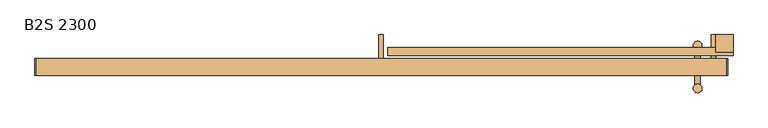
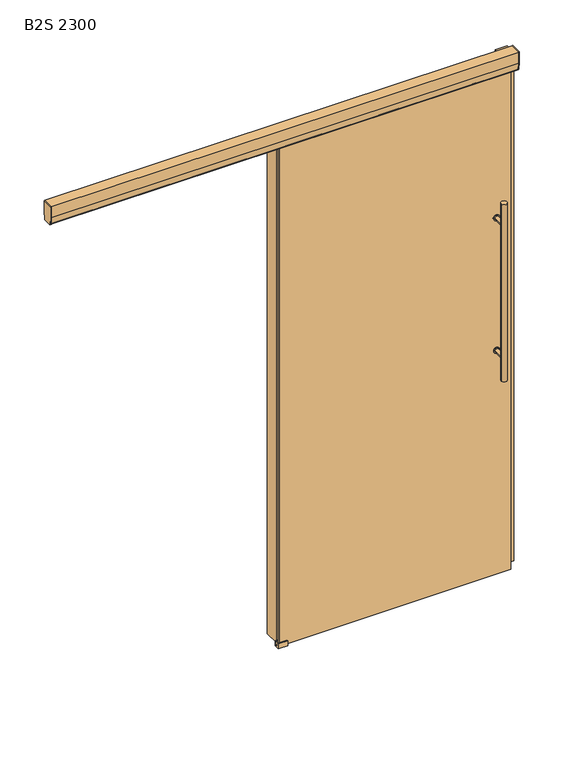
"""IFC4 building model written with IfcOpenShell, lengths in millimetres: door geometry, Mobiliário_Mobiliário de Escritório_Porta Simples de Correr - BS_Marelli : B2S 2300."""

from ifc_helpers import new_model, si_unit, point, frame, frame_2d, origin, origin_with_axes, place, context, project, spatial, polyline, circle_curve, trimmed, segment, composite_curve, outline, extrude, source, transform, mapped, element, save


def b2s_2300_ca406560(model_context):
    return source(origin(), model_context, "Body", "SweptSolid", [
        extrude(outline(polyline([(823.1735443, -30.5), (835.8735443, -30.5), (835.8735443, -100.0), (823.1735443, -100.0), (823.1735443, -30.5)])), origin_with_axes(), (0.0, 0.0, 1.0), 2275.0),
        extrude(outline(polyline([(1798.5735443, -30.5), (1798.5735443, -100.0), (1785.8735443, -100.0), (1785.8735443, -30.5), (1798.5735443, -30.5)])), origin_with_axes(), (0.0, 0.0, 1.0), 2275.0),
        extrude(outline(polyline([(1808.5735443, -129.0), (818.5735443, -129.0), (818.5735443, -119.0), (1808.5735443, -119.0), (1808.5735443, -129.0)])), frame((0.0, 0.0, 4.5), z_axis=(0.0, 0.0, 1.0), x_axis=(1.0, 0.0, 0.0)), (0.0, 0.0, 1.0), 2295.5),
        extrude(outline(polyline([(1848.5735443, -30.5), (1848.5735443, -80.5), (1798.5735443, -80.5), (1798.5735443, -30.5), (1848.5735443, -30.5)])), origin_with_axes(), (0.0, 0.0, 1.0), 2300.0),
        extrude(outline(composite_curve([segment(trimmed(circle_curve(frame_2d((1020.0, 1745.6952124)), 12.7), [point((1020.0, 1732.9952124))], [point((1020.0, 1758.3952124))], False, "CARTESIAN"), True, "CONTINUOUS"), segment(trimmed(circle_curve(frame_2d((1020.0, 1745.6952124)), 12.7), [point((1020.0, 1758.3952124))], [point((1020.0, 1732.9952124))], False, "CARTESIAN"), True, "CONTINUOUS")], self_intersect=False)), frame((0.0, -133.0, 0.0), z_axis=(0.0, 1.0, 0.0), x_axis=(0.0, 0.0, 1.0)), (0.0, 0.0, 1.0), 18.0),
        extrude(outline(composite_curve([segment(trimmed(circle_curve(frame_2d((1620.0, 1745.6952124)), 12.7), [point((1620.0, 1732.9952124))], [point((1620.0, 1758.3952124))], False, "CARTESIAN"), True, "CONTINUOUS"), segment(trimmed(circle_curve(frame_2d((1620.0, 1745.6952124)), 12.7), [point((1620.0, 1758.3952124))], [point((1620.0, 1732.9952124))], False, "CARTESIAN"), True, "CONTINUOUS")], self_intersect=False)), frame((0.0, -133.0, 0.0), z_axis=(0.0, 1.0, 0.0), x_axis=(0.0, 0.0, 1.0)), (0.0, 0.0, 1.0), 18.0),
        extrude(outline(composite_curve([segment(trimmed(circle_curve(frame_2d((1020.0, 1745.6952124)), 8.0), [point((1020.0, 1737.6952124))], [point((1020.0, 1753.6952124))], False, "CARTESIAN"), True, "CONTINUOUS"), segment(trimmed(circle_curve(frame_2d((1020.0, 1745.6952124)), 8.0), [point((1020.0, 1753.6952124))], [point((1020.0, 1737.6952124))], False, "CARTESIAN"), True, "CONTINUOUS")], self_intersect=False)), frame((0.0, -186.2, 0.0), z_axis=(0.0, 1.0, 0.0), x_axis=(0.0, 0.0, 1.0)), (0.0, 0.0, 1.0), 124.4),
        extrude(outline(composite_curve([segment(trimmed(circle_curve(frame_2d((1620.0, 1745.6952124)), 8.0), [point((1620.0, 1737.6952124))], [point((1620.0, 1753.6952124))], False, "CARTESIAN"), True, "CONTINUOUS"), segment(trimmed(circle_curve(frame_2d((1620.0, 1745.6952124)), 8.0), [point((1620.0, 1753.6952124))], [point((1620.0, 1737.6952124))], False, "CARTESIAN"), True, "CONTINUOUS")], self_intersect=False)), frame((0.0, -186.2, 0.0), z_axis=(0.0, 1.0, 0.0), x_axis=(0.0, 0.0, 1.0)), (0.0, 0.0, 1.0), 124.4),
        extrude(outline(composite_curve([segment(trimmed(circle_curve(frame_2d((1745.6952124, -61.8)), 12.7), [point((1758.3952124, -61.8))], [point((1732.9952124, -61.8))], False, "CARTESIAN"), True, "CONTINUOUS"), segment(trimmed(circle_curve(frame_2d((1745.6952124, -61.8)), 12.7), [point((1732.9952124, -61.8))], [point((1758.3952124, -61.8))], False, "CARTESIAN"), True, "CONTINUOUS")], self_intersect=False)), frame((0.0, 0.0, 920.0), z_axis=(0.0, 0.0, 1.0), x_axis=(1.0, 0.0, 0.0)), (0.0, 0.0, 1.0), 800.0),
        extrude(outline(composite_curve([segment(trimmed(circle_curve(frame_2d((1745.6952124, -186.2)), 12.7), [point((1758.3952124, -186.2))], [point((1732.9952124, -186.2))], False, "CARTESIAN"), True, "CONTINUOUS"), segment(trimmed(circle_curve(frame_2d((1745.6952124, -186.2)), 12.7), [point((1732.9952124, -186.2))], [point((1758.3952124, -186.2))], False, "CARTESIAN"), True, "CONTINUOUS")], self_intersect=False)), frame((0.0, 0.0, 920.0), z_axis=(0.0, 0.0, 1.0), x_axis=(1.0, 0.0, 0.0)), (0.0, 0.0, 1.0), 800.0),
        extrude(outline(polyline([(-68.3, 2300.0), (-68.3, 2275.0), (-83.8, 2275.0), (-83.8, 2284.0), (-90.3, 2284.0), (-90.3, 2300.0), (-68.3, 2300.0)])), frame((848.5735443, 0.0, 0.0), z_axis=(1.0, 0.0, 0.0), x_axis=(0.0, 1.0, 0.0)), (0.0, 0.0, 1.0), 1000.0),
        extrude(outline(composite_curve([segment(polyline([(-148.0, 2350.0099534), (-100.0, 2350.0099534), (-100.0, 2300.0099534), (-103.3526316, 2270.2787193)]), True, "CONTINUOUS"), segment(trimmed(circle_curve(frame_2d((-109.9731658, 2271.7910743)), 6.7910743), [point((-103.3526316, 2270.2787193))], [point((-109.9731658, 2265.0))], False, "CARTESIAN"), True, "CONTINUOUS"), segment(polyline([(-109.9731658, 2265.0), (-138.0268342, 2265.0)]), True, "CONTINUOUS"), segment(trimmed(circle_curve(frame_2d((-138.0268342, 2271.7910743)), 6.7910743), [point((-138.0268342, 2265.0))], [point((-144.6473684, 2270.2787193))], False, "CARTESIAN"), True, "CONTINUOUS"), segment(polyline([(-144.6473684, 2270.2787193), (-148.0, 2300.0099534), (-148.0, 2350.0099534)]), True, "CONTINUOUS")], self_intersect=False)), frame((-172.4264557, 0.0, 0.0), z_axis=(1.0, 0.0, 0.0), x_axis=(0.0, 1.0, 0.0)), (0.0, 0.0, 1.0), 3.0),
        extrude(outline(composite_curve([segment(polyline([(-148.0, 2350.0), (-100.0, 2350.0), (-100.0, 2300.0), (-103.3526316, 2270.2687659)]), True, "CONTINUOUS"), segment(trimmed(circle_curve(frame_2d((-109.9731658, 2271.781121)), 6.7910743), [point((-103.3526316, 2270.2687659))], [point((-109.9731658, 2264.9900466))], False, "CARTESIAN"), True, "CONTINUOUS"), segment(polyline([(-109.9731658, 2264.9900466), (-138.0268342, 2264.9900466)]), True, "CONTINUOUS"), segment(trimmed(circle_curve(frame_2d((-138.0268342, 2271.781121)), 6.7910743), [point((-138.0268342, 2264.9900466))], [point((-144.6473684, 2270.2687659))], False, "CARTESIAN"), True, "CONTINUOUS"), segment(polyline([(-144.6473684, 2270.2687659), (-148.0, 2300.0), (-148.0, 2350.0)]), True, "CONTINUOUS")], self_intersect=False)), frame((1830.5735443, 0.0, 0.0), z_axis=(1.0, 0.0, 0.0), x_axis=(0.0, 1.0, 0.0)), (0.0, 0.0, 1.0), 3.0),
        extrude(outline(composite_curve([segment(polyline([(-148.0, 2350.0), (-100.0, 2350.0), (-100.0, 2300.0), (-103.3526316, 2270.2687659)]), True, "CONTINUOUS"), segment(trimmed(circle_curve(frame_2d((-109.9731658, 2271.781121)), 6.7910743), [point((-103.3526316, 2270.2687659))], [point((-109.9731658, 2264.9900466))], False, "CARTESIAN"), True, "CONTINUOUS"), segment(polyline([(-109.9731658, 2264.9900466), (-119.0, 2264.9900466), (-119.0, 2268.4900466), (-109.9731658, 2268.4900466)]), True, "CONTINUOUS"), segment(trimmed(circle_curve(frame_2d((-109.9731658, 2271.781121)), 3.2910743), [point((-109.9731658, 2268.4900466))], [point((-106.8045793, 2270.8916099))], True, "CARTESIAN"), True, "CONTINUOUS"), segment(polyline([(-106.8045793, 2270.8916099), (-103.5, 2300.1967147), (-103.5, 2346.5), (-144.5, 2346.5), (-144.5, 2300.1967147), (-141.1954207, 2270.8916099)]), True, "CONTINUOUS"), segment(trimmed(circle_curve(frame_2d((-138.0268342, 2271.781121)), 3.2910743), [point((-141.1954207, 2270.8916099))], [point((-138.0268342, 2268.4900466))], True, "CARTESIAN"), True, "CONTINUOUS"), segment(polyline([(-138.0268342, 2268.4900466), (-129.0, 2268.4900466), (-129.0, 2264.9900466), (-138.0268342, 2264.9900466)]), True, "CONTINUOUS"), segment(trimmed(circle_curve(frame_2d((-138.0268342, 2271.781121)), 6.7910743), [point((-138.0268342, 2264.9900466))], [point((-144.6473684, 2270.2687659))], False, "CARTESIAN"), True, "CONTINUOUS"), segment(polyline([(-144.6473684, 2270.2687659), (-148.0, 2300.0), (-148.0, 2350.0)]), True, "CONTINUOUS")], self_intersect=False)), frame((-169.4264557, 0.0, 0.0), z_axis=(1.0, 0.0, 0.0), x_axis=(0.0, 1.0, 0.0)), (0.0, 0.0, 1.0), 2000.0),
        extrude(outline(polyline([(-113.0, 22.0), (-113.0, 0.0), (-135.0, 0.0), (-135.0, 22.0), (-130.3, 22.0), (-129.5, 19.0), (-129.5, 4.5), (-118.5, 4.5), (-118.5, 19.0), (-117.7, 22.0), (-113.0, 22.0)])), frame((808.5735443, 0.0, 0.0), z_axis=(1.0, 0.0, 0.0), x_axis=(0.0, 1.0, 0.0)), (0.0, 0.0, 1.0), 40.0),
    ])


if __name__ == "__main__":
    model = new_model("IFC4")
    model_context = context("Model", 3, world=origin())
    ifc_project = project(units=[si_unit("LENGTHUNIT", "METRE", prefix="MILLI")], contexts=[model_context])
    site = spatial("IfcSite", under=ifc_project)
    building = spatial("IfcBuilding", under=site)
    placement = place(None, origin())
    b2s_2300_shape = b2s_2300_ca406560(model_context)
    element("IfcDoor", 1, ObjectType="Mobiliário_Mobiliário de Escritório_Porta Simples de Correr - BS_Marelli : B2S 2300", at=placement, inside=building, context=model_context, shape_type="MappedRepresentation", body=[
        mapped(b2s_2300_shape, transform((0.0, 0.0, 0.0), x_axis=(1.0, 0.0, 0.0), y_axis=(0.0, 1.0, 0.0), z_axis=(0.0, 0.0, 1.0))),
    ])
    save(model, "model.ifc")
